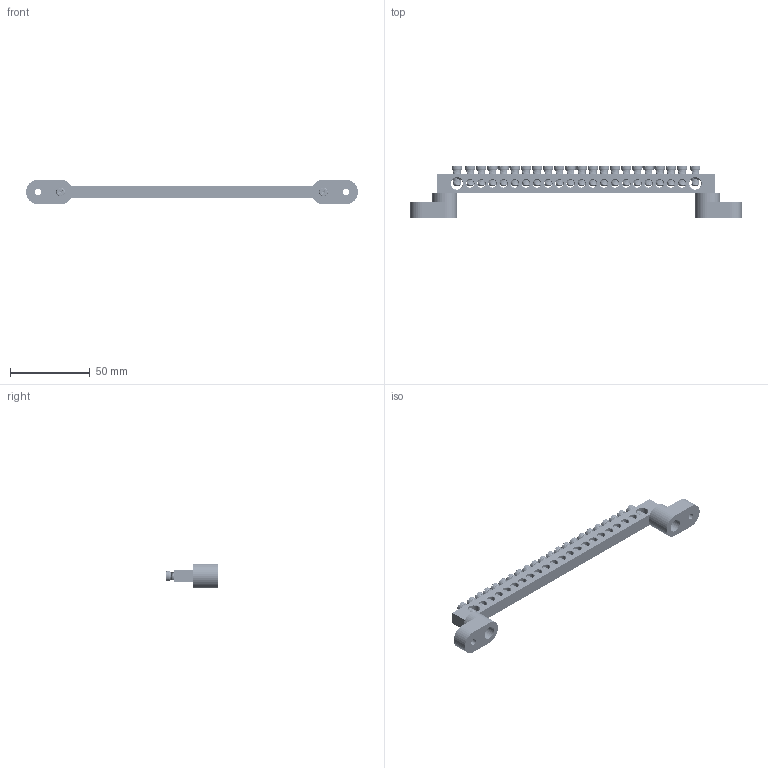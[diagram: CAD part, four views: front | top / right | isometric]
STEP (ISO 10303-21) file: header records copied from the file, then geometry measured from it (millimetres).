
FILE_DESCRIPTION (( 'STEP AP214' ), '1' );
FILE_NAME ('277916 OptiKit BB-T-N-S-22-8õ12-ñèíèé.STEP', '2020-02-06T12:45:03', ( '' ), ( '' ), 'SwSTEP 2.0', 'SolidWorks 2018', '' );
FILE_SCHEMA (( 'AUTOMOTIVE_DESIGN' ));
Length unit declared in the file: millimetre
Products named in the file (6): 277916 OptiKit BB-T-N-S-22-8õ12-ñèíèé; DIN èçîëÿòîð 2; Âèíò ì4; Øèíà íóëåâàÿ ñ êðåïåæíûìè îòâåðñòèÿìè ïî êðàÿì 8õ12 22-2_1; Âèíò ì5; Øèíà 8õ12 22 2
Assembly tree (28 placements, depth 3):
  277916 OptiKit BB-T-N-S-22-8õ12-ñèíèé
    Øèíà íóëåâàÿ ñ êðåïåæíûìè îòâåðñòèÿìè ïî êðàÿì 8õ12 22-2_1
      Øèíà 8õ12 22 2
      Âèíò ì5  x22
    Âèíò ì4  x2
    DIN èçîëÿòîð 2  x2
Bounding box: 208.4 x 33.1 x 15.4 mm (x, y, z)
Volume: 25995.2 mm3; surface area: 22037.4 mm2
Topology: 27 solids, 27 shells, 2006 faces, 5550 edges, 3576 vertices
Faces by surface type: cylinder 772, plane 666, cone 326, torus 168, bspline 74
Entity records: 16700 total; most frequent: CARTESIAN_POINT 7416, ORIENTED_EDGE 1806, DIRECTION 1745, EDGE_CURVE 903, AXIS2_PLACEMENT_3D 693, VERTEX_POINT 568, EDGE_LOOP 445, LINE 359
